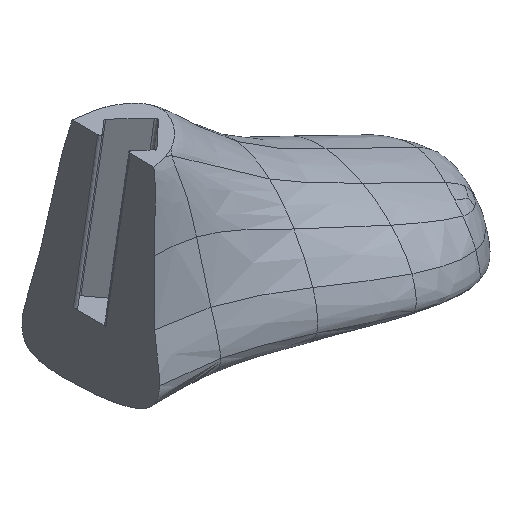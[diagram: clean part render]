
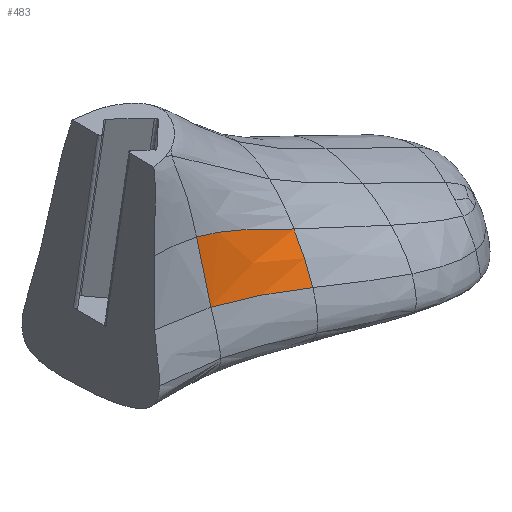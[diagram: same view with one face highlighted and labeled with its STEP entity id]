
A CAD part, isometric view. The second image highlights one B-rep face of the part: STEP entity #483.
In plain terms, the highlighted free-form (B-spline) face has degree [3, 3] with [5, 5] control points.
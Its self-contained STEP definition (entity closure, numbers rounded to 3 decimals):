
#483=ADVANCED_FACE('',(#569),#1644,.T.);
#569=FACE_OUTER_BOUND('',#655,.T.);
#655=EDGE_LOOP('',(#831,#832,#833,#834));
#831=ORIENTED_EDGE('',*,*,#1162,.T.);
#832=ORIENTED_EDGE('',*,*,#1175,.F.);
#833=ORIENTED_EDGE('',*,*,#1159,.F.);
#834=ORIENTED_EDGE('',*,*,#1161,.F.);
#1159=EDGE_CURVE('',#1521,#1523,#1359,.T.);
#1161=EDGE_CURVE('',#1522,#1521,#1361,.T.);
#1162=EDGE_CURVE('',#1522,#1530,#1362,.T.);
#1175=EDGE_CURVE('',#1523,#1530,#1375,.T.);
#1359=B_SPLINE_CURVE_WITH_KNOTS('',3,(#8206,#8207,#8208,#8209,#8210),
 .UNSPECIFIED.,.F.,.F.,(4,1,4),(0.,1.,2.),.UNSPECIFIED.);
#1361=B_SPLINE_CURVE_WITH_KNOTS('',3,(#8216,#8217,#8218,#8219,#8220),
 .UNSPECIFIED.,.F.,.F.,(4,1,4),(0.,1.,2.),.UNSPECIFIED.);
#1362=B_SPLINE_CURVE_WITH_KNOTS('',3,(#8221,#8222,#8223,#8224,#8225,#8226,
#8227,#8228,#8229,#8230,#8231),.UNSPECIFIED.,.F.,.F.,(4,1,1,1,1,1,1,1,4),
(-1.,-0.75,-0.5,-0.375,-0.25,-0.188,-0.125,-0.063,0.),.UNSPECIFIED.);
#1375=B_SPLINE_CURVE_WITH_KNOTS('',3,(#8334,#8335,#8336,#8337,#8338),
 .UNSPECIFIED.,.F.,.F.,(4,1,4),(0.,1.,2.),.UNSPECIFIED.);
#1521=VERTEX_POINT('',#7697);
#1522=VERTEX_POINT('',#7698);
#1523=VERTEX_POINT('',#7699);
#1530=VERTEX_POINT('',#7706);
#1644=B_SPLINE_SURFACE_WITH_KNOTS('',3,3,((#3704,#3705,#3706,#3707,#3708),
(#3709,#3710,#3711,#3712,#3713),(#3714,#3715,#3716,#3717,#3718),(#3719,
#3720,#3721,#3722,#3723),(#3724,#3725,#3726,#3727,#3728)),.UNSPECIFIED.,
 .F.,.F.,.F.,(4,1,4),(4,1,4),(0.,1.,2.),(0.,1.,2.),.UNSPECIFIED.);
#3704=CARTESIAN_POINT('',(49.985,-23.438,57.429));
#3705=CARTESIAN_POINT('',(49.638,-25.486,54.917));
#3706=CARTESIAN_POINT('',(48.827,-29.629,49.477));
#3707=CARTESIAN_POINT('',(47.926,-33.174,43.761));
#3708=CARTESIAN_POINT('',(47.488,-34.623,40.972));
#3709=CARTESIAN_POINT('',(42.8,-22.936,60.733));
#3710=CARTESIAN_POINT('',(42.503,-24.841,57.964));
#3711=CARTESIAN_POINT('',(41.777,-28.728,52.045));
#3712=CARTESIAN_POINT('',(40.942,-32.133,45.972));
#3713=CARTESIAN_POINT('',(40.537,-33.555,43.049));
#3714=CARTESIAN_POINT('',(28.196,-22.127,67.819));
#3715=CARTESIAN_POINT('',(28.064,-23.677,64.368));
#3716=CARTESIAN_POINT('',(27.622,-26.939,57.206));
#3717=CARTESIAN_POINT('',(27.02,-30.004,50.241));
#3718=CARTESIAN_POINT('',(26.728,-31.359,46.988));
#3719=CARTESIAN_POINT('',(14.2,-21.501,72.936));
#3720=CARTESIAN_POINT('',(14.219,-22.707,68.831));
#3721=CARTESIAN_POINT('',(14.061,-25.299,60.599));
#3722=CARTESIAN_POINT('',(13.713,-27.951,52.982));
#3723=CARTESIAN_POINT('',(13.542,-29.217,49.492));
#3724=CARTESIAN_POINT('',(7.624,-21.183,74.271));
#3725=CARTESIAN_POINT('',(7.679,-22.255,69.937));
#3726=CARTESIAN_POINT('',(7.603,-24.547,61.399));
#3727=CARTESIAN_POINT('',(7.343,-26.985,53.665));
#3728=CARTESIAN_POINT('',(7.214,-28.203,50.133));
#7697=CARTESIAN_POINT('',(47.488,-34.623,40.972));
#7698=CARTESIAN_POINT('',(49.985,-23.438,57.429));
#7699=CARTESIAN_POINT('',(7.214,-28.203,50.133));
#7706=CARTESIAN_POINT('',(7.624,-21.183,74.271));
#8206=CARTESIAN_POINT('',(47.488,-34.623,40.972));
#8207=CARTESIAN_POINT('',(40.537,-33.555,43.049));
#8208=CARTESIAN_POINT('',(26.728,-31.359,46.988));
#8209=CARTESIAN_POINT('',(13.542,-29.217,49.492));
#8210=CARTESIAN_POINT('',(7.214,-28.203,50.133));
#8216=CARTESIAN_POINT('',(49.985,-23.438,57.429));
#8217=CARTESIAN_POINT('',(49.638,-25.486,54.917));
#8218=CARTESIAN_POINT('',(48.827,-29.629,49.477));
#8219=CARTESIAN_POINT('',(47.926,-33.174,43.761));
#8220=CARTESIAN_POINT('',(47.488,-34.623,40.972));
#8221=CARTESIAN_POINT('',(49.985,-23.438,57.429));
#8222=CARTESIAN_POINT('',(46.392,-23.187,59.081));
#8223=CARTESIAN_POINT('',(39.149,-22.734,62.504));
#8224=CARTESIAN_POINT('',(30.117,-22.257,66.626));
#8225=CARTESIAN_POINT('',(23.005,-21.909,69.553));
#8226=CARTESIAN_POINT('',(18.628,-21.702,71.172));
#8227=CARTESIAN_POINT('',(15.181,-21.541,72.306));
#8228=CARTESIAN_POINT('',(12.625,-21.421,73.068));
#8229=CARTESIAN_POINT('',(10.103,-21.302,73.732));
#8230=CARTESIAN_POINT('',(8.446,-21.222,74.104));
#8231=CARTESIAN_POINT('',(7.624,-21.183,74.271));
#8334=CARTESIAN_POINT('',(7.214,-28.203,50.133));
#8335=CARTESIAN_POINT('',(7.343,-26.985,53.665));
#8336=CARTESIAN_POINT('',(7.603,-24.547,61.399));
#8337=CARTESIAN_POINT('',(7.679,-22.255,69.937));
#8338=CARTESIAN_POINT('',(7.624,-21.183,74.271));
